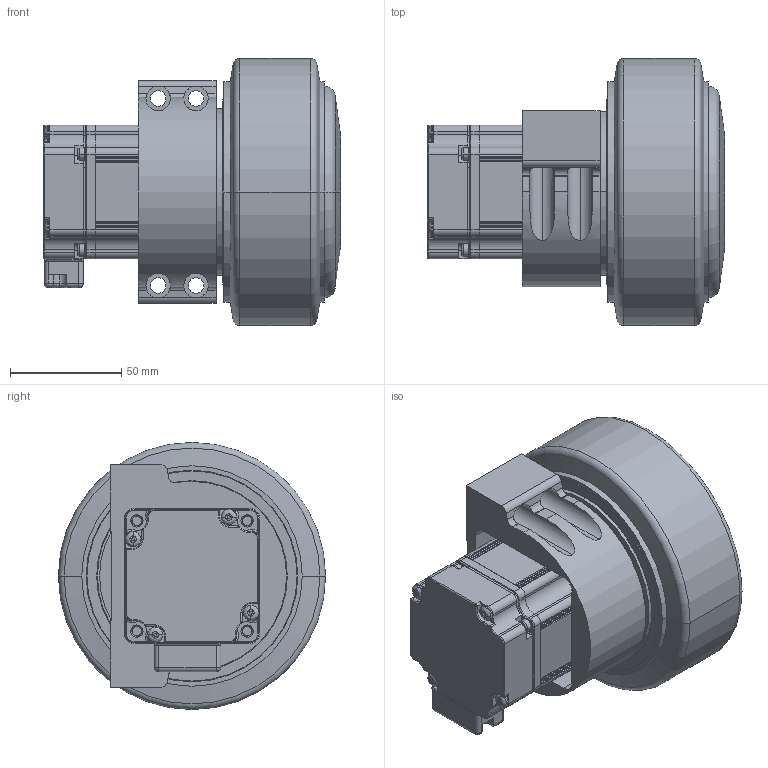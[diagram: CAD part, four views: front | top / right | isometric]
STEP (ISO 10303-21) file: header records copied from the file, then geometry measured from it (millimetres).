
FILE_DESCRIPTION (( 'STEP AP203' ), '1' );
FILE_NAME ('TEC-120P200SP.STEP', '2022-11-29T07:34:21', ( 'Admin' ), ( '' ), 'SwSTEP 2.0', 'SolidWorks 2021', '' );
FILE_SCHEMA (( 'CONFIG_CONTROL_DESIGN' ));
Length unit declared in the file: millimetre
Products named in the file (1): TEC-120P200SP
Bounding box: 133.6 x 120 x 120 mm (x, y, z)
Volume: 788809 mm3; surface area: 190539.5 mm2
Topology: 51 solids, 51 shells, 2257 faces, 5582 edges, 3466 vertices
Faces by surface type: cylinder 973, plane 736, cone 271, bspline 233, torus 44
Entity records: 75790 total; most frequent: CARTESIAN_POINT 22089, DIRECTION 11636, ORIENTED_EDGE 11018, EDGE_CURVE 5509, AXIS2_PLACEMENT_3D 4547, VERTEX_POINT 3466, EDGE_LOOP 2567, LINE 2542
